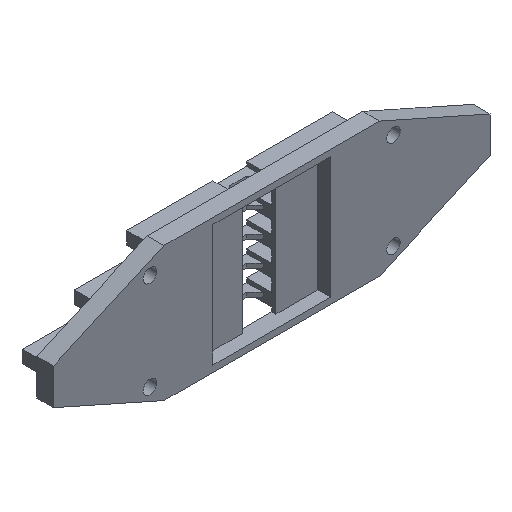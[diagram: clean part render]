
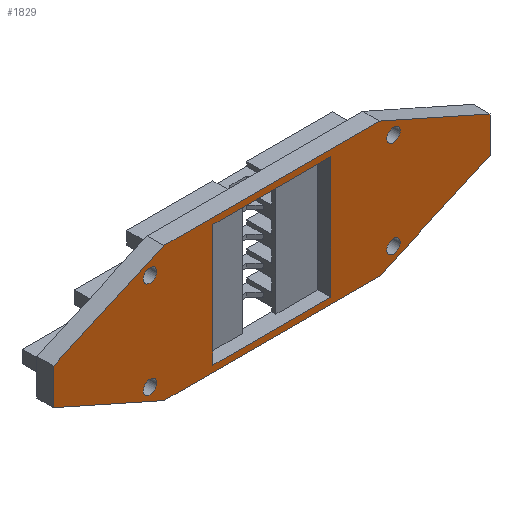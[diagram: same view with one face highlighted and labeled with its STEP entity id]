
A CAD part, isometric view. The second image highlights one B-rep face of the part: STEP entity #1829.
In plain terms, the highlighted planar face has unit normal (0, -1, 0).
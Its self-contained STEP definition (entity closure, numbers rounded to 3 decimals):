
#23=CIRCLE('',#1930,1.6);
#24=CIRCLE('',#1931,1.6);
#25=CIRCLE('',#1932,1.6);
#26=CIRCLE('',#1933,1.6);
#32=FACE_BOUND('',#151,.T.);
#33=FACE_BOUND('',#152,.T.);
#34=FACE_BOUND('',#153,.T.);
#35=FACE_BOUND('',#154,.T.);
#36=FACE_BOUND('',#155,.T.);
#63=FACE_OUTER_BOUND('',#150,.T.);
#150=EDGE_LOOP('',(#1391,#1392,#1393,#1394,#1395,#1396,#1397,#1398));
#151=EDGE_LOOP('',(#1399));
#152=EDGE_LOOP('',(#1400));
#153=EDGE_LOOP('',(#1401));
#154=EDGE_LOOP('',(#1402));
#155=EDGE_LOOP('',(#1403,#1404,#1405,#1406));
#328=LINE('',#2685,#590);
#335=LINE('',#2700,#597);
#369=LINE('',#2758,#631);
#370=LINE('',#2760,#632);
#371=LINE('',#2762,#633);
#372=LINE('',#2764,#634);
#373=LINE('',#2766,#635);
#374=LINE('',#2768,#636);
#375=LINE('',#2770,#637);
#376=LINE('',#2771,#638);
#377=LINE('',#2780,#639);
#378=LINE('',#2781,#640);
#590=VECTOR('',#2160,10.);
#597=VECTOR('',#2171,10.);
#631=VECTOR('',#2211,10.);
#632=VECTOR('',#2212,10.);
#633=VECTOR('',#2213,10.);
#634=VECTOR('',#2214,10.);
#635=VECTOR('',#2215,10.);
#636=VECTOR('',#2216,10.);
#637=VECTOR('',#2217,10.);
#638=VECTOR('',#2218,10.);
#639=VECTOR('',#2227,10.);
#640=VECTOR('',#2228,10.);
#841=VERTEX_POINT('',#2683);
#842=VERTEX_POINT('',#2684);
#847=VERTEX_POINT('',#2698);
#848=VERTEX_POINT('',#2699);
#868=VERTEX_POINT('',#2756);
#869=VERTEX_POINT('',#2757);
#870=VERTEX_POINT('',#2759);
#871=VERTEX_POINT('',#2761);
#872=VERTEX_POINT('',#2763);
#873=VERTEX_POINT('',#2765);
#874=VERTEX_POINT('',#2767);
#875=VERTEX_POINT('',#2769);
#876=VERTEX_POINT('',#2772);
#877=VERTEX_POINT('',#2774);
#878=VERTEX_POINT('',#2776);
#879=VERTEX_POINT('',#2778);
#1036=EDGE_CURVE('',#841,#842,#328,.T.);
#1043=EDGE_CURVE('',#847,#848,#335,.T.);
#1077=EDGE_CURVE('',#868,#869,#369,.T.);
#1078=EDGE_CURVE('',#869,#870,#370,.T.);
#1079=EDGE_CURVE('',#870,#871,#371,.T.);
#1080=EDGE_CURVE('',#871,#872,#372,.T.);
#1081=EDGE_CURVE('',#872,#873,#373,.T.);
#1082=EDGE_CURVE('',#873,#874,#374,.T.);
#1083=EDGE_CURVE('',#874,#875,#375,.T.);
#1084=EDGE_CURVE('',#875,#868,#376,.T.);
#1085=EDGE_CURVE('',#876,#876,#23,.T.);
#1086=EDGE_CURVE('',#877,#877,#24,.T.);
#1087=EDGE_CURVE('',#878,#878,#25,.T.);
#1088=EDGE_CURVE('',#879,#879,#26,.T.);
#1089=EDGE_CURVE('',#848,#841,#377,.T.);
#1090=EDGE_CURVE('',#842,#847,#378,.T.);
#1391=ORIENTED_EDGE('',*,*,#1077,.T.);
#1392=ORIENTED_EDGE('',*,*,#1078,.T.);
#1393=ORIENTED_EDGE('',*,*,#1079,.T.);
#1394=ORIENTED_EDGE('',*,*,#1080,.T.);
#1395=ORIENTED_EDGE('',*,*,#1081,.T.);
#1396=ORIENTED_EDGE('',*,*,#1082,.T.);
#1397=ORIENTED_EDGE('',*,*,#1083,.T.);
#1398=ORIENTED_EDGE('',*,*,#1084,.T.);
#1399=ORIENTED_EDGE('',*,*,#1085,.T.);
#1400=ORIENTED_EDGE('',*,*,#1086,.T.);
#1401=ORIENTED_EDGE('',*,*,#1087,.T.);
#1402=ORIENTED_EDGE('',*,*,#1088,.T.);
#1403=ORIENTED_EDGE('',*,*,#1089,.T.);
#1404=ORIENTED_EDGE('',*,*,#1036,.T.);
#1405=ORIENTED_EDGE('',*,*,#1090,.T.);
#1406=ORIENTED_EDGE('',*,*,#1043,.T.);
#1751=PLANE('',#1929);
#1829=ADVANCED_FACE('',(#63,#32,#33,#34,#35,#36),#1751,.T.);
#1929=AXIS2_PLACEMENT_3D('',#2755,#2209,#2210);
#1930=AXIS2_PLACEMENT_3D('',#2773,#2219,#2220);
#1931=AXIS2_PLACEMENT_3D('',#2775,#2221,#2222);
#1932=AXIS2_PLACEMENT_3D('',#2777,#2223,#2224);
#1933=AXIS2_PLACEMENT_3D('',#2779,#2225,#2226);
#2160=DIRECTION('',(0.,0.,1.));
#2171=DIRECTION('',(0.,0.,-1.));
#2209=DIRECTION('center_axis',(0.,-1.,0.));
#2210=DIRECTION('ref_axis',(0.,0.,-1.));
#2211=DIRECTION('',(0.914,0.,-0.406));
#2212=DIRECTION('',(1.,0.,0.));
#2213=DIRECTION('',(0.914,0.,0.406));
#2214=DIRECTION('',(0.,0.,1.));
#2215=DIRECTION('',(-0.914,0.,0.406));
#2216=DIRECTION('',(-1.,0.,0.));
#2217=DIRECTION('',(-0.914,0.,-0.406));
#2218=DIRECTION('',(0.,0.,-1.));
#2219=DIRECTION('center_axis',(0.,1.,0.));
#2220=DIRECTION('ref_axis',(0.,0.,-1.));
#2221=DIRECTION('center_axis',(0.,1.,0.));
#2222=DIRECTION('ref_axis',(0.,0.,-1.));
#2223=DIRECTION('center_axis',(0.,1.,0.));
#2224=DIRECTION('ref_axis',(0.,0.,-1.));
#2225=DIRECTION('center_axis',(0.,1.,0.));
#2226=DIRECTION('ref_axis',(0.,0.,-1.));
#2227=DIRECTION('',(-1.,0.,0.));
#2228=DIRECTION('',(1.,0.,0.));
#2683=CARTESIAN_POINT('',(-14.274,38.,14.584));
#2684=CARTESIAN_POINT('',(-14.274,38.,43.584));
#2685=CARTESIAN_POINT('',(-14.274,38.,21.834));
#2698=CARTESIAN_POINT('',(13.726,38.,43.584));
#2699=CARTESIAN_POINT('',(13.726,38.,14.584));
#2700=CARTESIAN_POINT('',(13.726,38.,36.334));
#2755=CARTESIAN_POINT('Origin',(-0.274,38.,29.084));
#2756=CARTESIAN_POINT('',(-52.274,38.,24.784));
#2757=CARTESIAN_POINT('',(-25.949,38.,13.084));
#2758=CARTESIAN_POINT('',(-30.767,38.,15.226));
#2759=CARTESIAN_POINT('',(25.4,38.,13.084));
#2760=CARTESIAN_POINT('',(-12.774,38.,13.084));
#2761=CARTESIAN_POINT('',(51.726,38.,24.784));
#2762=CARTESIAN_POINT('',(16.718,38.,9.226));
#2763=CARTESIAN_POINT('',(51.726,38.,33.384));
#2764=CARTESIAN_POINT('',(51.726,38.,27.584));
#2765=CARTESIAN_POINT('',(25.4,38.,45.084));
#2766=CARTESIAN_POINT('',(30.218,38.,42.943));
#2767=CARTESIAN_POINT('',(-25.949,38.,45.084));
#2768=CARTESIAN_POINT('',(12.226,38.,45.084));
#2769=CARTESIAN_POINT('',(-52.274,38.,33.384));
#2770=CARTESIAN_POINT('',(-17.267,38.,48.943));
#2771=CARTESIAN_POINT('',(-52.274,38.,30.584));
#2772=CARTESIAN_POINT('',(-29.274,38.,19.184));
#2773=CARTESIAN_POINT('Origin',(-29.274,38.,17.584));
#2774=CARTESIAN_POINT('',(28.726,38.,19.184));
#2775=CARTESIAN_POINT('Origin',(28.726,38.,17.584));
#2776=CARTESIAN_POINT('',(28.726,38.,42.184));
#2777=CARTESIAN_POINT('Origin',(28.726,38.,40.584));
#2778=CARTESIAN_POINT('',(-29.274,38.,42.184));
#2779=CARTESIAN_POINT('Origin',(-29.274,38.,40.584));
#2780=CARTESIAN_POINT('',(-2.274,38.,14.584));
#2781=CARTESIAN_POINT('',(-7.274,38.,43.584));
